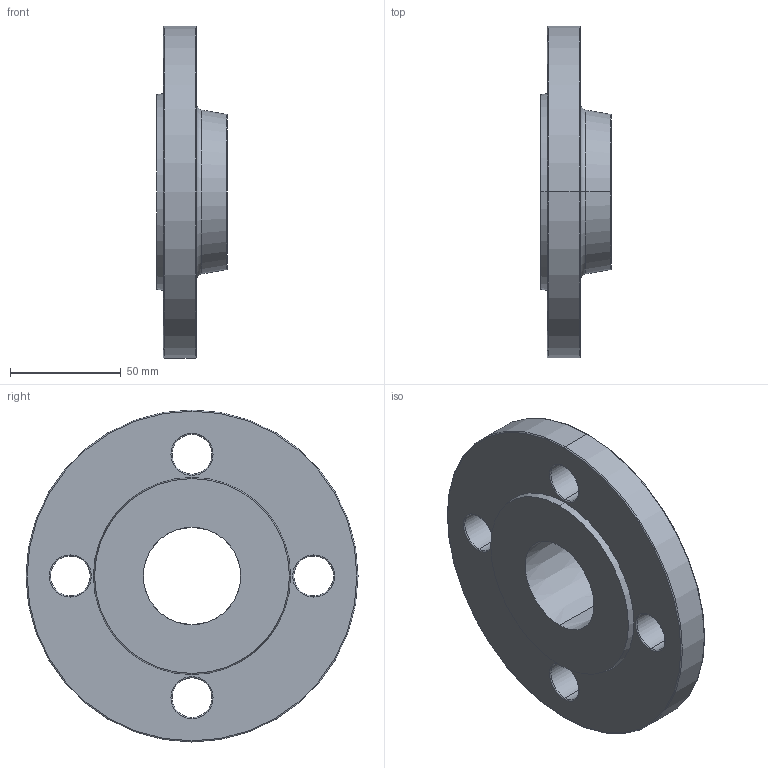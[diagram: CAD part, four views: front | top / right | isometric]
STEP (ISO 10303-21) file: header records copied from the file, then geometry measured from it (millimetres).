
FILE_DESCRIPTION (( 'STEP AP203' ), '1' );
FILE_NAME ('KP_W6-54.step', '2011-08-08T11:59:35', ( '' ), ( '' ), 'SwSTEP 2.0', 'SolidWorks 2011', '' );
FILE_SCHEMA (( 'CONFIG_CONTROL_DESIGN' ));
Length unit declared in the file: millimetre
Products named in the file (1): KP_W6-54
Bounding box: 32 x 150 x 150 mm (x, y, z)
Volume: 276486.4 mm3; surface area: 47980.7 mm2
Topology: 1 solids, 1 shells, 44 faces, 96 edges, 56 vertices
Faces by surface type: torus 24, cylinder 10, cone 6, plane 4
Entity records: 1325 total; most frequent: DIRECTION 266, CARTESIAN_POINT 197, ORIENTED_EDGE 192, AXIS2_PLACEMENT_3D 125, EDGE_CURVE 96, CIRCLE 80, VERTEX_POINT 56, EDGE_LOOP 56
